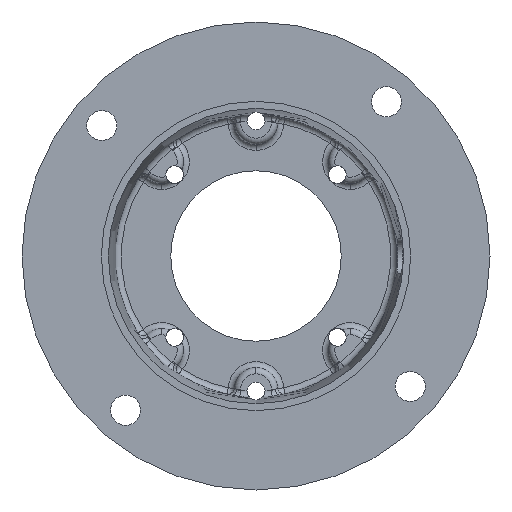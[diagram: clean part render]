
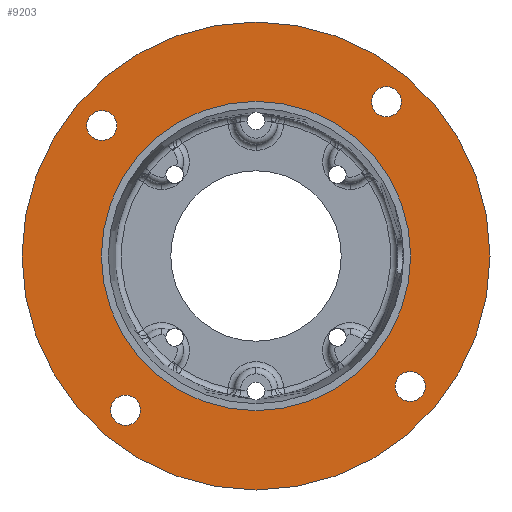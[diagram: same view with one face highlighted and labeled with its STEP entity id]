
A CAD part, front view. The second image highlights one B-rep face of the part: STEP entity #9203.
In plain terms, the highlighted planar face has unit normal (0, -1, 0).
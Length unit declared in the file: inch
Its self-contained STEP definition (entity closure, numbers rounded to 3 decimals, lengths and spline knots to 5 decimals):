
#4 = ORIENTED_EDGE ( 'NONE', *, *, #5821, .F. ) ;
#9 = EDGE_LOOP ( 'NONE', ( #4, #807 ) ) ;
#99 = AXIS2_PLACEMENT_3D ( 'NONE', #4804, #528, #5533 ) ;
#328 = CIRCLE ( 'NONE', #8938, 0.21875 ) ;
#352 = DIRECTION ( 'NONE',  ( 0., 0., -1. ) ) ;
#411 = CARTESIAN_POINT ( 'NONE',  ( 0., 0.103, 2.2505 ) ) ;
#528 = DIRECTION ( 'NONE',  ( 0., -1., 0. ) ) ;
#601 = EDGE_LOOP ( 'NONE', ( #2727, #5336 ) ) ;
#616 = EDGE_CURVE ( 'NONE', #4299, #2342, #3528, .T. ) ;
#636 = AXIS2_PLACEMENT_3D ( 'NONE', #5797, #1527, #6503 ) ;
#657 = CIRCLE ( 'NONE', #99, 3.405 ) ;
#807 = ORIENTED_EDGE ( 'NONE', *, *, #2758, .F. ) ;
#976 = AXIS2_PLACEMENT_3D ( 'NONE', #4150, #9142, #4870 ) ;
#985 = FACE_OUTER_BOUND ( 'NONE', #1869, .T. ) ;
#1041 = CARTESIAN_POINT ( 'NONE',  ( 1.89861, 0.103, 2.24475 ) ) ;
#1274 = CIRCLE ( 'NONE', #976, 2.2505 ) ;
#1349 = DIRECTION ( 'NONE',  ( 0., -1., 0. ) ) ;
#1524 = AXIS2_PLACEMENT_3D ( 'NONE', #7015, #2759, #7751 ) ;
#1527 = DIRECTION ( 'NONE',  ( 0., -1., 0. ) ) ;
#1581 = EDGE_CURVE ( 'NONE', #7465, #1991, #657, .T. ) ;
#1642 = EDGE_CURVE ( 'NONE', #3706, #6524, #7814, .T. ) ;
#1684 = EDGE_CURVE ( 'NONE', #6524, #3706, #1878, .T. ) ;
#1686 = EDGE_CURVE ( 'NONE', #5511, #6411, #7572, .T. ) ;
#1752 = DIRECTION ( 'NONE',  ( 0., 0., -1. ) ) ;
#1869 = EDGE_LOOP ( 'NONE', ( #6157, #2163 ) ) ;
#1878 = CIRCLE ( 'NONE', #2966, 0.21875 ) ;
#1896 = EDGE_LOOP ( 'NONE', ( #7595, #6722 ) ) ;
#1991 = VERTEX_POINT ( 'NONE', #2327 ) ;
#2053 = CARTESIAN_POINT ( 'NONE',  ( -1.89861, 0.103, -2.24475 ) ) ;
#2081 = CARTESIAN_POINT ( 'NONE',  ( 0., 0.103, -3.405 ) ) ;
#2149 = CARTESIAN_POINT ( 'NONE',  ( 1.89861, 0.103, 2.026 ) ) ;
#2163 = ORIENTED_EDGE ( 'NONE', *, *, #2711, .T. ) ;
#2199 = PLANE ( 'NONE',  #6514 ) ;
#2327 = CARTESIAN_POINT ( 'NONE',  ( 0., 0.103, 3.405 ) ) ;
#2342 = VERTEX_POINT ( 'NONE', #9154 ) ;
#2530 = EDGE_CURVE ( 'NONE', #3045, #3184, #1274, .T. ) ;
#2547 = AXIS2_PLACEMENT_3D ( 'NONE', #7999, #3745, #8704 ) ;
#2711 = EDGE_CURVE ( 'NONE', #1991, #7465, #9193, .T. ) ;
#2727 = ORIENTED_EDGE ( 'NONE', *, *, #1686, .F. ) ;
#2758 = EDGE_CURVE ( 'NONE', #7648, #7791, #7911, .T. ) ;
#2759 = DIRECTION ( 'NONE',  ( 0., -1., 0. ) ) ;
#2772 = DIRECTION ( 'NONE',  ( 0., 0., -1. ) ) ;
#2794 = CARTESIAN_POINT ( 'NONE',  ( 1.89861, 0.103, 2.24475 ) ) ;
#2855 = AXIS2_PLACEMENT_3D ( 'NONE', #8874, #4612, #352 ) ;
#2904 = FACE_BOUND ( 'NONE', #6730, .T. ) ;
#2916 = DIRECTION ( 'NONE',  ( 0., 0., -1. ) ) ;
#2966 = AXIS2_PLACEMENT_3D ( 'NONE', #5632, #1349, #6332 ) ;
#3045 = VERTEX_POINT ( 'NONE', #4535 ) ;
#3184 = VERTEX_POINT ( 'NONE', #411 ) ;
#3221 = CARTESIAN_POINT ( 'NONE',  ( -2.24475, 0.103, 1.89861 ) ) ;
#3323 = AXIS2_PLACEMENT_3D ( 'NONE', #3221, #8193, #3927 ) ;
#3343 = FACE_BOUND ( 'NONE', #1896, .T. ) ;
#3384 = DIRECTION ( 'NONE',  ( 0., -1., 0. ) ) ;
#3437 = AXIS2_PLACEMENT_3D ( 'NONE', #2794, #7786, #3516 ) ;
#3508 = CARTESIAN_POINT ( 'NONE',  ( -2.24475, 0.103, 1.67986 ) ) ;
#3516 = DIRECTION ( 'NONE',  ( 0., 0., -1. ) ) ;
#3528 = CIRCLE ( 'NONE', #5569, 0.21875 ) ;
#3706 = VERTEX_POINT ( 'NONE', #4197 ) ;
#3745 = DIRECTION ( 'NONE',  ( 0., -1., 0. ) ) ;
#3927 = DIRECTION ( 'NONE',  ( 0., 0., -1. ) ) ;
#4150 = CARTESIAN_POINT ( 'NONE',  ( 0., 0.103, 0. ) ) ;
#4197 = CARTESIAN_POINT ( 'NONE',  ( 2.24475, 0.103, -2.11736 ) ) ;
#4299 = VERTEX_POINT ( 'NONE', #4516 ) ;
#4516 = CARTESIAN_POINT ( 'NONE',  ( -1.89861, 0.103, -2.026 ) ) ;
#4535 = CARTESIAN_POINT ( 'NONE',  ( 0., 0.103, -2.2505 ) ) ;
#4612 = DIRECTION ( 'NONE',  ( 0., -1., 0. ) ) ;
#4767 = FACE_BOUND ( 'NONE', #9, .T. ) ;
#4804 = CARTESIAN_POINT ( 'NONE',  ( 0., 0.103, 0. ) ) ;
#4854 = ORIENTED_EDGE ( 'NONE', *, *, #6695, .F. ) ;
#4870 = DIRECTION ( 'NONE',  ( 0., 0., -1. ) ) ;
#5336 = ORIENTED_EDGE ( 'NONE', *, *, #8613, .F. ) ;
#5347 = EDGE_LOOP ( 'NONE', ( #4854, #6030 ) ) ;
#5511 = VERTEX_POINT ( 'NONE', #2149 ) ;
#5533 = DIRECTION ( 'NONE',  ( 0., 0., -1. ) ) ;
#5569 = AXIS2_PLACEMENT_3D ( 'NONE', #2053, #7030, #2772 ) ;
#5632 = CARTESIAN_POINT ( 'NONE',  ( 2.24475, 0.103, -1.89861 ) ) ;
#5797 = CARTESIAN_POINT ( 'NONE',  ( 0., 0.103, 0. ) ) ;
#5821 = EDGE_CURVE ( 'NONE', #7791, #7648, #7856, .T. ) ;
#5912 = CARTESIAN_POINT ( 'NONE',  ( -2.24475, 0.103, 2.11736 ) ) ;
#6025 = DIRECTION ( 'NONE',  ( 0., -1., 0. ) ) ;
#6030 = ORIENTED_EDGE ( 'NONE', *, *, #616, .F. ) ;
#6157 = ORIENTED_EDGE ( 'NONE', *, *, #1581, .T. ) ;
#6332 = DIRECTION ( 'NONE',  ( 0., 0., -1. ) ) ;
#6411 = VERTEX_POINT ( 'NONE', #6799 ) ;
#6503 = DIRECTION ( 'NONE',  ( 0., 0., -1. ) ) ;
#6514 = AXIS2_PLACEMENT_3D ( 'NONE', #8471, #7179, #2916 ) ;
#6524 = VERTEX_POINT ( 'NONE', #9115 ) ;
#6636 = EDGE_CURVE ( 'NONE', #3184, #3045, #7394, .T. ) ;
#6664 = FACE_BOUND ( 'NONE', #601, .T. ) ;
#6695 = EDGE_CURVE ( 'NONE', #2342, #4299, #7170, .T. ) ;
#6722 = ORIENTED_EDGE ( 'NONE', *, *, #1684, .F. ) ;
#6730 = EDGE_LOOP ( 'NONE', ( #7092, #7115 ) ) ;
#6799 = CARTESIAN_POINT ( 'NONE',  ( 1.89861, 0.103, 2.4635 ) ) ;
#7015 = CARTESIAN_POINT ( 'NONE',  ( 2.24475, 0.103, -1.89861 ) ) ;
#7030 = DIRECTION ( 'NONE',  ( 0., -1., 0. ) ) ;
#7092 = ORIENTED_EDGE ( 'NONE', *, *, #2530, .F. ) ;
#7115 = ORIENTED_EDGE ( 'NONE', *, *, #6636, .F. ) ;
#7170 = CIRCLE ( 'NONE', #2547, 0.21875 ) ;
#7179 = DIRECTION ( 'NONE',  ( 0., -1., 0. ) ) ;
#7394 = CIRCLE ( 'NONE', #636, 2.2505 ) ;
#7465 = VERTEX_POINT ( 'NONE', #2081 ) ;
#7572 = CIRCLE ( 'NONE', #3437, 0.21875 ) ;
#7595 = ORIENTED_EDGE ( 'NONE', *, *, #1642, .F. ) ;
#7648 = VERTEX_POINT ( 'NONE', #5912 ) ;
#7654 = CARTESIAN_POINT ( 'NONE',  ( -2.24475, 0.103, 1.89861 ) ) ;
#7751 = DIRECTION ( 'NONE',  ( 0., 0., -1. ) ) ;
#7786 = DIRECTION ( 'NONE',  ( 0., -1., 0. ) ) ;
#7791 = VERTEX_POINT ( 'NONE', #3508 ) ;
#7814 = CIRCLE ( 'NONE', #1524, 0.21875 ) ;
#7856 = CIRCLE ( 'NONE', #8051, 0.21875 ) ;
#7911 = CIRCLE ( 'NONE', #3323, 0.21875 ) ;
#7999 = CARTESIAN_POINT ( 'NONE',  ( -1.89861, 0.103, -2.24475 ) ) ;
#8051 = AXIS2_PLACEMENT_3D ( 'NONE', #7654, #3384, #8344 ) ;
#8193 = DIRECTION ( 'NONE',  ( 0., -1., 0. ) ) ;
#8344 = DIRECTION ( 'NONE',  ( 0., 0., -1. ) ) ;
#8471 = CARTESIAN_POINT ( 'NONE',  ( 0., 0.103, 0. ) ) ;
#8570 = FACE_BOUND ( 'NONE', #5347, .T. ) ;
#8613 = EDGE_CURVE ( 'NONE', #6411, #5511, #328, .T. ) ;
#8704 = DIRECTION ( 'NONE',  ( 0., 0., -1. ) ) ;
#8874 = CARTESIAN_POINT ( 'NONE',  ( 0., 0.103, 0. ) ) ;
#8938 = AXIS2_PLACEMENT_3D ( 'NONE', #1041, #6025, #1752 ) ;
#9115 = CARTESIAN_POINT ( 'NONE',  ( 2.24475, 0.103, -1.67986 ) ) ;
#9142 = DIRECTION ( 'NONE',  ( 0., -1., 0. ) ) ;
#9154 = CARTESIAN_POINT ( 'NONE',  ( -1.89861, 0.103, -2.4635 ) ) ;
#9193 = CIRCLE ( 'NONE', #2855, 3.405 ) ;
#9203 = ADVANCED_FACE ( 'NONE', ( #6664, #4767, #3343, #8570, #2904, #985 ), #2199, .T. ) ;
